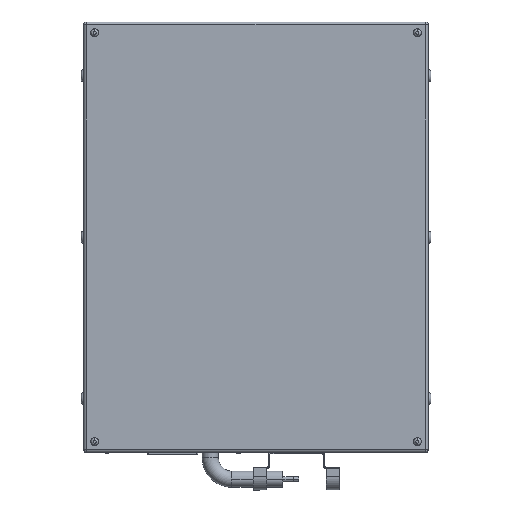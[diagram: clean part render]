
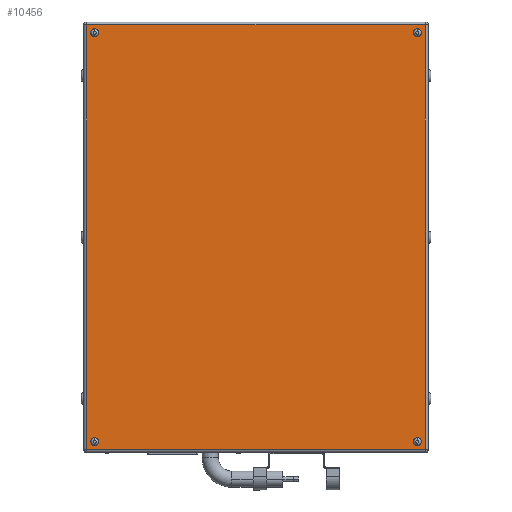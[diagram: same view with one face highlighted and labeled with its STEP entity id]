
A CAD part, front view. The second image highlights one B-rep face of the part: STEP entity #10456.
In plain terms, the highlighted planar face has unit normal (0, -1, 0).
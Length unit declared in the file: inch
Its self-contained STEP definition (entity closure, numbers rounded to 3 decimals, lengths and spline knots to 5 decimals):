
#63 = ORIENTED_EDGE ( 'NONE', *, *, #1624, .F. ) ;
#78 = EDGE_CURVE ( 'NONE', #616, #14712, #7525, .T. ) ;
#139 = DIRECTION ( 'NONE',  ( 0., -1., 0. ) ) ;
#304 = DIRECTION ( 'NONE',  ( 0., -1., 0. ) ) ;
#437 = CIRCLE ( 'NONE', #18539, 0.37402 ) ;
#517 = CARTESIAN_POINT ( 'NONE',  ( -15., -11., -18.62598 ) ) ;
#616 = VERTEX_POINT ( 'NONE', #18748 ) ;
#840 = EDGE_LOOP ( 'NONE', ( #3325, #13599, #4796, #18025 ) ) ;
#1011 = PLANE ( 'NONE',  #13596 ) ;
#1184 = VERTEX_POINT ( 'NONE', #11773 ) ;
#1354 = EDGE_CURVE ( 'NONE', #8132, #10854, #11015, .T. ) ;
#1624 = EDGE_CURVE ( 'NONE', #8620, #1184, #3693, .T. ) ;
#1685 = AXIS2_PLACEMENT_3D ( 'NONE', #17689, #11250, #3519 ) ;
#2112 = VECTOR ( 'NONE', #20301, 39.37008 ) ;
#2128 = DIRECTION ( 'NONE',  ( 0., -1., 0. ) ) ;
#2504 = FACE_BOUND ( 'NONE', #7852, .T. ) ;
#2530 = CARTESIAN_POINT ( 'NONE',  ( -15., -11., -19.37402 ) ) ;
#3104 = CIRCLE ( 'NONE', #10106, 0.37402 ) ;
#3325 = ORIENTED_EDGE ( 'NONE', *, *, #15322, .T. ) ;
#3519 = DIRECTION ( 'NONE',  ( 0., 0., -1. ) ) ;
#3555 = EDGE_LOOP ( 'NONE', ( #63, #13700 ) ) ;
#3625 = DIRECTION ( 'NONE',  ( 0., 0., -1. ) ) ;
#3693 = CIRCLE ( 'NONE', #8716, 0.37402 ) ;
#4201 = FACE_BOUND ( 'NONE', #18300, .T. ) ;
#4271 = AXIS2_PLACEMENT_3D ( 'NONE', #6929, #16353, #15048 ) ;
#4340 = EDGE_CURVE ( 'NONE', #1184, #8620, #3104, .T. ) ;
#4489 = CARTESIAN_POINT ( 'NONE',  ( 15.734, -11., -19.734 ) ) ;
#4721 = ORIENTED_EDGE ( 'NONE', *, *, #10293, .F. ) ;
#4796 = ORIENTED_EDGE ( 'NONE', *, *, #10930, .T. ) ;
#5051 = CIRCLE ( 'NONE', #14725, 0.37402 ) ;
#5168 = VERTEX_POINT ( 'NONE', #7998 ) ;
#5458 = EDGE_CURVE ( 'NONE', #10085, #20323, #5051, .T. ) ;
#6338 = ORIENTED_EDGE ( 'NONE', *, *, #15731, .F. ) ;
#6740 = VECTOR ( 'NONE', #20324, 39.37008 ) ;
#6929 = CARTESIAN_POINT ( 'NONE',  ( -15., -11., -19. ) ) ;
#7525 = LINE ( 'NONE', #13876, #6740 ) ;
#7771 = VECTOR ( 'NONE', #12640, 39.37008 ) ;
#7820 = VERTEX_POINT ( 'NONE', #10669 ) ;
#7852 = EDGE_LOOP ( 'NONE', ( #13131, #6338 ) ) ;
#7998 = CARTESIAN_POINT ( 'NONE',  ( -15., -11., 19.37402 ) ) ;
#8132 = VERTEX_POINT ( 'NONE', #10243 ) ;
#8620 = VERTEX_POINT ( 'NONE', #15722 ) ;
#8716 = AXIS2_PLACEMENT_3D ( 'NONE', #11528, #304, #19220 ) ;
#8814 = CARTESIAN_POINT ( 'NONE',  ( -15., -11., -19. ) ) ;
#8905 = DIRECTION ( 'NONE',  ( 0., 0., -1. ) ) ;
#10069 = VERTEX_POINT ( 'NONE', #16894 ) ;
#10085 = VERTEX_POINT ( 'NONE', #2530 ) ;
#10106 = AXIS2_PLACEMENT_3D ( 'NONE', #13515, #18382, #13400 ) ;
#10243 = CARTESIAN_POINT ( 'NONE',  ( -15.734, -11., -19.734 ) ) ;
#10293 = EDGE_CURVE ( 'NONE', #20323, #10085, #11934, .T. ) ;
#10456 = ADVANCED_FACE ( 'NONE', ( #4201, #2504, #10558, #19930, #16970 ), #1011, .T. ) ;
#10467 = DIRECTION ( 'NONE',  ( 0., -1., 0. ) ) ;
#10558 = FACE_BOUND ( 'NONE', #3555, .T. ) ;
#10669 = CARTESIAN_POINT ( 'NONE',  ( -15., -11., 18.62598 ) ) ;
#10764 = DIRECTION ( 'NONE',  ( 0., -1., 0. ) ) ;
#10854 = VERTEX_POINT ( 'NONE', #4489 ) ;
#10930 = EDGE_CURVE ( 'NONE', #14712, #8132, #11568, .T. ) ;
#11014 = CIRCLE ( 'NONE', #1685, 0.37402 ) ;
#11015 = LINE ( 'NONE', #17468, #2112 ) ;
#11147 = VERTEX_POINT ( 'NONE', #12780 ) ;
#11250 = DIRECTION ( 'NONE',  ( 0., -1., 0. ) ) ;
#11497 = ORIENTED_EDGE ( 'NONE', *, *, #20360, .F. ) ;
#11528 = CARTESIAN_POINT ( 'NONE',  ( 15., -11., -19. ) ) ;
#11568 = LINE ( 'NONE', #18003, #14938 ) ;
#11773 = CARTESIAN_POINT ( 'NONE',  ( 15., -11., -19.37402 ) ) ;
#11843 = DIRECTION ( 'NONE',  ( 0., 0., -1. ) ) ;
#11934 = CIRCLE ( 'NONE', #4271, 0.37402 ) ;
#12340 = CARTESIAN_POINT ( 'NONE',  ( 0., -11., 0. ) ) ;
#12640 = DIRECTION ( 'NONE',  ( 0., 0., 1. ) ) ;
#12720 = DIRECTION ( 'NONE',  ( 0., 0., -1. ) ) ;
#12780 = CARTESIAN_POINT ( 'NONE',  ( 15., -11., 18.62598 ) ) ;
#13003 = EDGE_LOOP ( 'NONE', ( #4721, #15723 ) ) ;
#13131 = ORIENTED_EDGE ( 'NONE', *, *, #18764, .F. ) ;
#13295 = CARTESIAN_POINT ( 'NONE',  ( 15., -11., 19. ) ) ;
#13400 = DIRECTION ( 'NONE',  ( 0., 0., -1. ) ) ;
#13515 = CARTESIAN_POINT ( 'NONE',  ( 15., -11., -19. ) ) ;
#13596 = AXIS2_PLACEMENT_3D ( 'NONE', #12340, #10764, #17201 ) ;
#13599 = ORIENTED_EDGE ( 'NONE', *, *, #78, .T. ) ;
#13700 = ORIENTED_EDGE ( 'NONE', *, *, #4340, .F. ) ;
#13771 = CIRCLE ( 'NONE', #19184, 0.37402 ) ;
#13876 = CARTESIAN_POINT ( 'NONE',  ( -15.8, -11., 19.734 ) ) ;
#14203 = LINE ( 'NONE', #20660, #7771 ) ;
#14345 = DIRECTION ( 'NONE',  ( 0., -1., 0. ) ) ;
#14430 = EDGE_CURVE ( 'NONE', #10069, #11147, #11014, .T. ) ;
#14555 = DIRECTION ( 'NONE',  ( 0., 0., -1. ) ) ;
#14582 = CARTESIAN_POINT ( 'NONE',  ( -15., -11., 19. ) ) ;
#14712 = VERTEX_POINT ( 'NONE', #17670 ) ;
#14725 = AXIS2_PLACEMENT_3D ( 'NONE', #8814, #10467, #8905 ) ;
#14938 = VECTOR ( 'NONE', #3625, 39.37008 ) ;
#15048 = DIRECTION ( 'NONE',  ( 0., 0., -1. ) ) ;
#15322 = EDGE_CURVE ( 'NONE', #10854, #616, #14203, .T. ) ;
#15722 = CARTESIAN_POINT ( 'NONE',  ( 15., -11., -18.62598 ) ) ;
#15723 = ORIENTED_EDGE ( 'NONE', *, *, #5458, .F. ) ;
#15731 = EDGE_CURVE ( 'NONE', #7820, #5168, #16481, .T. ) ;
#16353 = DIRECTION ( 'NONE',  ( 0., -1., 0. ) ) ;
#16481 = CIRCLE ( 'NONE', #19169, 0.37402 ) ;
#16894 = CARTESIAN_POINT ( 'NONE',  ( 15., -11., 19.37402 ) ) ;
#16970 = FACE_OUTER_BOUND ( 'NONE', #840, .T. ) ;
#17201 = DIRECTION ( 'NONE',  ( 0., 0., -1. ) ) ;
#17468 = CARTESIAN_POINT ( 'NONE',  ( 15.8, -11., -19.734 ) ) ;
#17670 = CARTESIAN_POINT ( 'NONE',  ( -15.734, -11., 19.734 ) ) ;
#17689 = CARTESIAN_POINT ( 'NONE',  ( 15., -11., 19. ) ) ;
#18003 = CARTESIAN_POINT ( 'NONE',  ( -15.734, -11., -19.8 ) ) ;
#18025 = ORIENTED_EDGE ( 'NONE', *, *, #1354, .T. ) ;
#18300 = EDGE_LOOP ( 'NONE', ( #19298, #11497 ) ) ;
#18382 = DIRECTION ( 'NONE',  ( 0., -1., 0. ) ) ;
#18539 = AXIS2_PLACEMENT_3D ( 'NONE', #13295, #2128, #11843 ) ;
#18748 = CARTESIAN_POINT ( 'NONE',  ( 15.734, -11., 19.734 ) ) ;
#18764 = EDGE_CURVE ( 'NONE', #5168, #7820, #13771, .T. ) ;
#19169 = AXIS2_PLACEMENT_3D ( 'NONE', #20702, #14345, #14555 ) ;
#19184 = AXIS2_PLACEMENT_3D ( 'NONE', #14582, #139, #12720 ) ;
#19220 = DIRECTION ( 'NONE',  ( 0., 0., -1. ) ) ;
#19298 = ORIENTED_EDGE ( 'NONE', *, *, #14430, .F. ) ;
#19930 = FACE_BOUND ( 'NONE', #13003, .T. ) ;
#20301 = DIRECTION ( 'NONE',  ( 1., 0., 0. ) ) ;
#20323 = VERTEX_POINT ( 'NONE', #517 ) ;
#20324 = DIRECTION ( 'NONE',  ( -1., 0., 0. ) ) ;
#20360 = EDGE_CURVE ( 'NONE', #11147, #10069, #437, .T. ) ;
#20660 = CARTESIAN_POINT ( 'NONE',  ( 15.734, -11., 19.8 ) ) ;
#20702 = CARTESIAN_POINT ( 'NONE',  ( -15., -11., 19. ) ) ;
